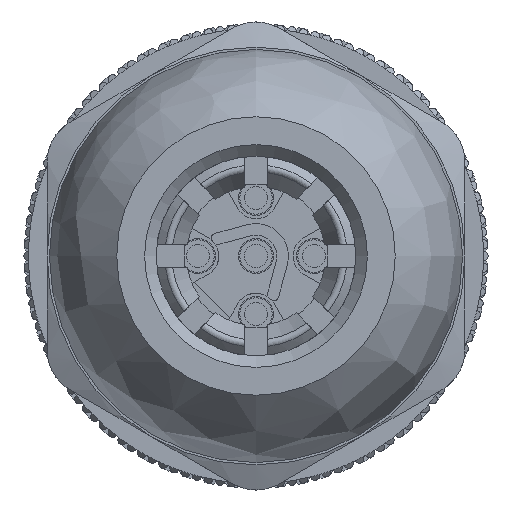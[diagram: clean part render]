
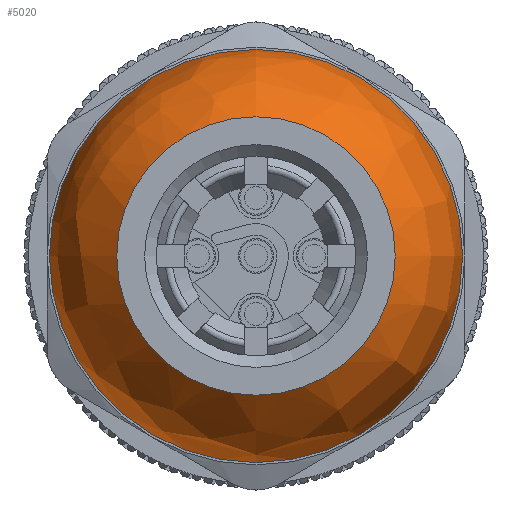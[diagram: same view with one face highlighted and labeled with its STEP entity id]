
A CAD part, front view. The second image highlights one B-rep face of the part: STEP entity #5020.
In plain terms, the highlighted free-form (B-spline) face has degree [3, 3] with [4, 7] control points.
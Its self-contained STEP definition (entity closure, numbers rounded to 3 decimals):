
#2731=(
BOUNDED_SURFACE()
B_SPLINE_SURFACE(3,3,((#31271,#31272,#31273,#31274,#31275,#31276,#31277),
(#31278,#31279,#31280,#31281,#31282,#31283,#31284),(#31285,#31286,#31287,
#31288,#31289,#31290,#31291),(#31292,#31293,#31294,#31295,#31296,#31297,
#31298)),.UNSPECIFIED.,.F.,.T.,.F.)
B_SPLINE_SURFACE_WITH_KNOTS((4,4),(1,3,3,3,1),(0.,1.),(-0.5,0.,0.5,1.,1.5),
 .UNSPECIFIED.)
GEOMETRIC_REPRESENTATION_ITEM()
RATIONAL_B_SPLINE_SURFACE(((1.,0.333,0.333,1.,0.333,
0.333,1.),(0.923,0.308,0.308,
0.923,0.308,0.308,0.923),
(0.923,0.308,0.308,0.923,
0.308,0.308,0.923),(1.,0.333,
0.333,1.,0.333,0.333,1.)))
REPRESENTATION_ITEM('')
SURFACE()
);
#5020=ADVANCED_FACE('',(#6676,#6677),#2731,.T.);
#6676=FACE_BOUND('',#7071,.T.);
#6677=FACE_BOUND('',#7072,.T.);
#7071=EDGE_LOOP('',(#8595));
#7072=EDGE_LOOP('',(#8596));
#8595=ORIENTED_EDGE('',*,*,#16138,.F.);
#8596=ORIENTED_EDGE('',*,*,#16139,.T.);
#14359=VERTEX_POINT('',#31267);
#14360=VERTEX_POINT('',#31270);
#16138=EDGE_CURVE('',#14359,#14359,#19008,.T.);
#16139=EDGE_CURVE('',#14360,#14360,#19009,.T.);
#19008=CIRCLE('',#20193,8.9);
#19009=CIRCLE('',#20195,6.);
#20193=AXIS2_PLACEMENT_3D('',#31266,#22653,#22654);
#20195=AXIS2_PLACEMENT_3D('',#31269,#22657,#22658);
#22653=DIRECTION('',(0.,1.,0.));
#22654=DIRECTION('',(0.,0.,1.));
#22657=DIRECTION('',(0.,1.,0.));
#22658=DIRECTION('',(0.,0.,1.));
#31266=CARTESIAN_POINT('',(0.,-49.,0.));
#31267=CARTESIAN_POINT('',(0.,-49.,8.9));
#31269=CARTESIAN_POINT('',(0.,-54.5,0.));
#31270=CARTESIAN_POINT('',(0.,-54.5,6.));
#31271=CARTESIAN_POINT('',(-8.9,-49.,0.));
#31272=CARTESIAN_POINT('',(-8.9,-49.,17.8));
#31273=CARTESIAN_POINT('',(8.9,-49.,17.8));
#31274=CARTESIAN_POINT('',(8.9,-49.,0.));
#31275=CARTESIAN_POINT('',(8.9,-49.,-17.8));
#31276=CARTESIAN_POINT('',(-8.9,-49.,-17.8));
#31277=CARTESIAN_POINT('',(-8.9,-49.,0.));
#31278=CARTESIAN_POINT('',(-8.9,-51.245,0.));
#31279=CARTESIAN_POINT('',(-8.9,-51.245,17.8));
#31280=CARTESIAN_POINT('',(8.9,-51.245,17.8));
#31281=CARTESIAN_POINT('',(8.9,-51.245,0.));
#31282=CARTESIAN_POINT('',(8.9,-51.245,-17.8));
#31283=CARTESIAN_POINT('',(-8.9,-51.245,-17.8));
#31284=CARTESIAN_POINT('',(-8.9,-51.245,0.));
#31285=CARTESIAN_POINT('',(-7.853,-53.232,0.));
#31286=CARTESIAN_POINT('',(-7.853,-53.232,15.706));
#31287=CARTESIAN_POINT('',(7.853,-53.232,15.706));
#31288=CARTESIAN_POINT('',(7.853,-53.232,0.));
#31289=CARTESIAN_POINT('',(7.853,-53.232,-15.705));
#31290=CARTESIAN_POINT('',(-7.853,-53.232,-15.705));
#31291=CARTESIAN_POINT('',(-7.853,-53.232,0.));
#31292=CARTESIAN_POINT('',(-6.,-54.5,0.));
#31293=CARTESIAN_POINT('',(-6.,-54.5,12.));
#31294=CARTESIAN_POINT('',(6.,-54.5,12.));
#31295=CARTESIAN_POINT('',(6.,-54.5,0.));
#31296=CARTESIAN_POINT('',(6.,-54.5,-12.));
#31297=CARTESIAN_POINT('',(-6.,-54.5,-12.));
#31298=CARTESIAN_POINT('',(-6.,-54.5,0.));
